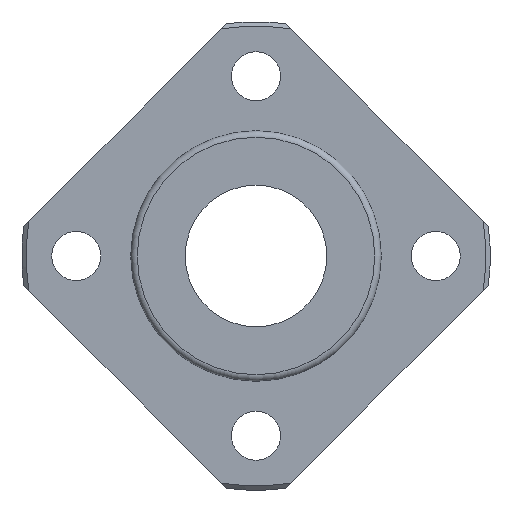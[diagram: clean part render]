
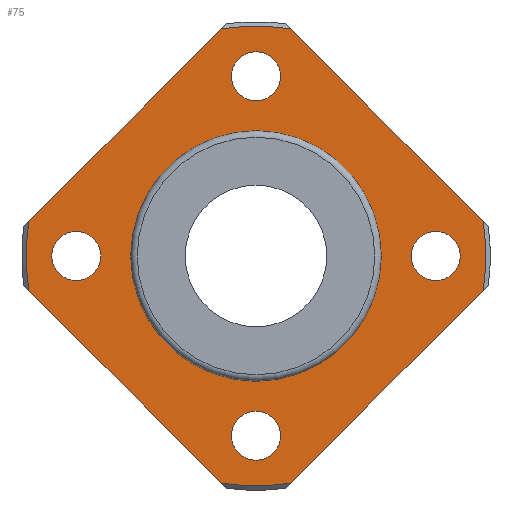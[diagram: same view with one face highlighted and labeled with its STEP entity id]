
A CAD part, left-side view. The second image highlights one B-rep face of the part: STEP entity #75.
In plain terms, the highlighted planar face has unit normal (-1, 0, 0).
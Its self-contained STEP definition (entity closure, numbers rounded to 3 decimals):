
#75=ADVANCED_FACE('',(#112,#113,#114,#115,#116,#117),#118,.T.);
#112=FACE_OUTER_BOUND('',#212,.T.);
#113=FACE_BOUND('',#213,.T.);
#114=FACE_BOUND('',#214,.T.);
#115=FACE_BOUND('',#215,.T.);
#116=FACE_BOUND('',#216,.T.);
#117=FACE_BOUND('',#217,.T.);
#118=PLANE('',#218);
#212=EDGE_LOOP('',(#312,#313,#314,#315,#316,#317,#318,#319));
#213=EDGE_LOOP('',(#320));
#214=EDGE_LOOP('',(#321));
#215=EDGE_LOOP('',(#322));
#216=EDGE_LOOP('',(#323));
#217=EDGE_LOOP('',(#324));
#218=AXIS2_PLACEMENT_3D('',#325,#326,#327);
#312=ORIENTED_EDGE('',*,*,#562,.T.);
#313=ORIENTED_EDGE('',*,*,#563,.T.);
#314=ORIENTED_EDGE('',*,*,#564,.T.);
#315=ORIENTED_EDGE('',*,*,#565,.T.);
#316=ORIENTED_EDGE('',*,*,#566,.T.);
#317=ORIENTED_EDGE('',*,*,#567,.T.);
#318=ORIENTED_EDGE('',*,*,#568,.T.);
#319=ORIENTED_EDGE('',*,*,#569,.T.);
#320=ORIENTED_EDGE('',*,*,#570,.F.);
#321=ORIENTED_EDGE('',*,*,#571,.T.);
#322=ORIENTED_EDGE('',*,*,#572,.T.);
#323=ORIENTED_EDGE('',*,*,#573,.T.);
#324=ORIENTED_EDGE('',*,*,#574,.T.);
#325=CARTESIAN_POINT('',(-6.0,16.125,0.0));
#326=DIRECTION('',(-1.0,0.0,0.));
#327=DIRECTION('',(0.,0.0,1.0));
#562=EDGE_CURVE('',#633,#634,#635,.T.);
#563=EDGE_CURVE('',#634,#636,#637,.T.);
#564=EDGE_CURVE('',#636,#638,#639,.T.);
#565=EDGE_CURVE('',#638,#640,#641,.T.);
#566=EDGE_CURVE('',#640,#642,#643,.T.);
#567=EDGE_CURVE('',#642,#644,#645,.T.);
#568=EDGE_CURVE('',#644,#646,#647,.T.);
#569=EDGE_CURVE('',#646,#633,#648,.T.);
#570=EDGE_CURVE('',#649,#649,#650,.T.);
#571=EDGE_CURVE('',#651,#651,#652,.T.);
#572=EDGE_CURVE('',#653,#653,#654,.T.);
#573=EDGE_CURVE('',#655,#655,#656,.T.);
#574=EDGE_CURVE('',#657,#657,#658,.T.);
#633=VERTEX_POINT('',#759);
#634=VERTEX_POINT('',#760);
#635=LINE('',#761,#762);
#636=VERTEX_POINT('',#763);
#637=CIRCLE('',#764,21.1);
#638=VERTEX_POINT('',#765);
#639=LINE('',#766,#767);
#640=VERTEX_POINT('',#768);
#641=CIRCLE('',#769,21.1);
#642=VERTEX_POINT('',#770);
#643=LINE('',#771,#772);
#644=VERTEX_POINT('',#773);
#645=CIRCLE('',#774,21.1);
#646=VERTEX_POINT('',#775);
#647=LINE('',#776,#777);
#648=CIRCLE('',#778,21.1);
#649=VERTEX_POINT('',#779);
#650=CIRCLE('',#780,11.15);
#651=VERTEX_POINT('',#781);
#652=CIRCLE('',#782,2.25);
#653=VERTEX_POINT('',#783);
#654=CIRCLE('',#784,2.25);
#655=VERTEX_POINT('',#785);
#656=CIRCLE('',#786,2.25);
#657=VERTEX_POINT('',#787);
#658=CIRCLE('',#788,2.25);
#759=CARTESIAN_POINT('',(-6.0,-3.183,-20.859));
#760=CARTESIAN_POINT('',(-6.0,-20.859,-3.183));
#761=CARTESIAN_POINT('',(-6.0,-12.643,-11.398));
#762=VECTOR('',#1045,1.0);
#763=CARTESIAN_POINT('',(-6.0,-20.859,3.183));
#764=AXIS2_PLACEMENT_3D('',#1046,#1047,#1048);
#765=CARTESIAN_POINT('',(-6.0,-3.183,20.859));
#766=CARTESIAN_POINT('',(-6.0,-12.643,11.398));
#767=VECTOR('',#1049,1.0);
#768=CARTESIAN_POINT('',(-6.0,3.183,20.859));
#769=AXIS2_PLACEMENT_3D('',#1050,#1051,#1052);
#770=CARTESIAN_POINT('',(-6.0,20.859,3.183));
#771=CARTESIAN_POINT('',(-6.0,20.706,3.336));
#772=VECTOR('',#1053,1.0);
#773=CARTESIAN_POINT('',(-6.0,20.859,-3.183));
#774=AXIS2_PLACEMENT_3D('',#1054,#1055,#1056);
#775=CARTESIAN_POINT('',(-6.0,3.183,-20.859));
#776=CARTESIAN_POINT('',(-6.0,20.706,-3.336));
#777=VECTOR('',#1057,1.0);
#778=AXIS2_PLACEMENT_3D('',#1058,#1059,#1060);
#779=CARTESIAN_POINT('',(-6.0,11.15,0.0));
#780=AXIS2_PLACEMENT_3D('',#1061,#1062,#1063);
#781=CARTESIAN_POINT('',(-6.0,16.5,2.25));
#782=AXIS2_PLACEMENT_3D('',#1064,#1065,#1066);
#783=CARTESIAN_POINT('',(-6.0,0.0,18.75));
#784=AXIS2_PLACEMENT_3D('',#1067,#1068,#1069);
#785=CARTESIAN_POINT('',(-6.0,-16.5,2.25));
#786=AXIS2_PLACEMENT_3D('',#1070,#1071,#1072);
#787=CARTESIAN_POINT('',(-6.0,0.0,-14.25));
#788=AXIS2_PLACEMENT_3D('',#1073,#1074,#1075);
#1045=DIRECTION('',(0.,-0.707,0.707));
#1046=CARTESIAN_POINT('',(-6.0,0.0,0.0));
#1047=DIRECTION('',(-1.0,0.0,0.));
#1048=DIRECTION('',(0.0,1.0,0.0));
#1049=DIRECTION('',(0.,0.707,0.707));
#1050=CARTESIAN_POINT('',(-6.0,0.0,0.0));
#1051=DIRECTION('',(-1.0,0.0,0.));
#1052=DIRECTION('',(0.0,1.0,0.0));
#1053=DIRECTION('',(0.,0.707,-0.707));
#1054=CARTESIAN_POINT('',(-6.0,0.0,0.0));
#1055=DIRECTION('',(-1.0,0.0,0.));
#1056=DIRECTION('',(0.0,1.0,0.0));
#1057=DIRECTION('',(0.,-0.707,-0.707));
#1058=CARTESIAN_POINT('',(-6.0,0.0,0.0));
#1059=DIRECTION('',(-1.0,0.0,0.));
#1060=DIRECTION('',(0.0,1.0,0.0));
#1061=CARTESIAN_POINT('',(-6.0,0.0,0.0));
#1062=DIRECTION('',(-1.0,0.0,0.));
#1063=DIRECTION('',(0.0,1.0,0.0));
#1064=CARTESIAN_POINT('',(-6.0,16.5,0.));
#1065=DIRECTION('',(1.0,0.0,0.));
#1066=DIRECTION('',(0.,0.0,-1.0));
#1067=CARTESIAN_POINT('',(-6.0,0.0,16.5));
#1068=DIRECTION('',(1.0,0.0,0.));
#1069=DIRECTION('',(0.,0.0,-1.0));
#1070=CARTESIAN_POINT('',(-6.0,-16.5,0.));
#1071=DIRECTION('',(1.0,0.0,0.));
#1072=DIRECTION('',(0.,0.0,-1.0));
#1073=CARTESIAN_POINT('',(-6.0,0.0,-16.5));
#1074=DIRECTION('',(1.0,0.0,0.));
#1075=DIRECTION('',(0.,0.0,-1.0));
